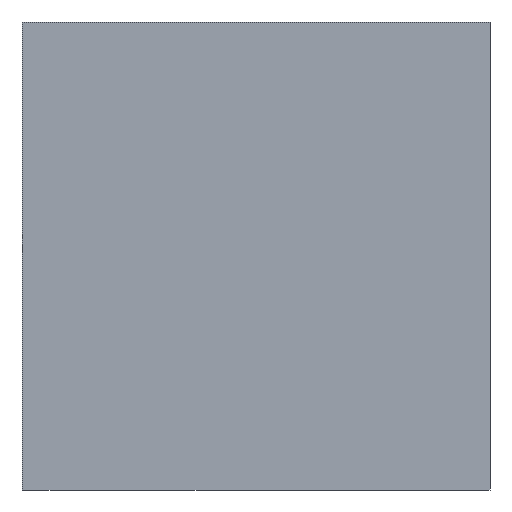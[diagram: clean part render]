
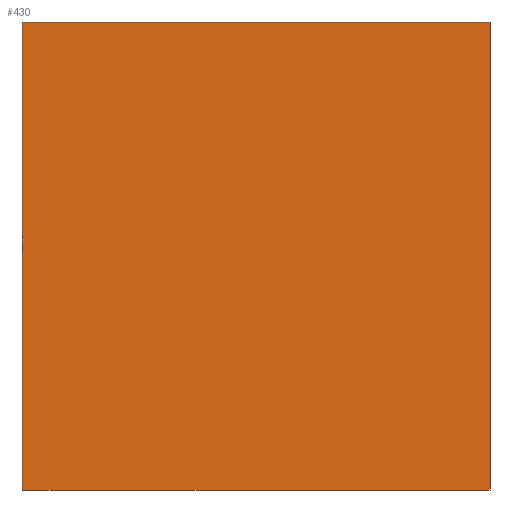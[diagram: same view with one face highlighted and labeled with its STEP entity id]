
A CAD part, left-side view. The second image highlights one B-rep face of the part: STEP entity #430.
In plain terms, the highlighted planar face has unit normal (-1, 0, 0).
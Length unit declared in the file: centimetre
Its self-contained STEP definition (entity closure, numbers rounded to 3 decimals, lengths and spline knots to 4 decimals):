
#34 = PLANE ( 'NONE',  #444 ) ;
#36 = VERTEX_POINT ( 'NONE', #450 ) ;
#45 = DIRECTION ( 'NONE',  ( 0., 0., -1. ) ) ;
#51 = EDGE_LOOP ( 'NONE', ( #802, #872, #668, #535 ) ) ;
#164 = CARTESIAN_POINT ( 'NONE',  ( 0., 1000., 0. ) ) ;
#187 = LINE ( 'NONE', #932, #747 ) ;
#199 = CARTESIAN_POINT ( 'NONE',  ( 0., 0., 1000. ) ) ;
#229 = DIRECTION ( 'NONE',  ( 0., -1., 0. ) ) ;
#266 = FACE_OUTER_BOUND ( 'NONE', #51, .T. ) ;
#300 = VECTOR ( 'NONE', #229, 100. ) ;
#355 = LINE ( 'NONE', #501, #581 ) ;
#377 = EDGE_CURVE ( 'NONE', #465, #531, #355, .T. ) ;
#379 = VERTEX_POINT ( 'NONE', #199 ) ;
#404 = DIRECTION ( 'NONE',  ( 0., 0., -1. ) ) ;
#413 = DIRECTION ( 'NONE',  ( 1., 0., 0. ) ) ;
#430 = ADVANCED_FACE ( 'NONE', ( #266 ), #34, .F. ) ;
#435 = DIRECTION ( 'NONE',  ( 0., 0., -1. ) ) ;
#444 = AXIS2_PLACEMENT_3D ( 'NONE', #631, #413, #404 ) ;
#450 = CARTESIAN_POINT ( 'NONE',  ( 0., 0., 0. ) ) ;
#465 = VERTEX_POINT ( 'NONE', #923 ) ;
#490 = LINE ( 'NONE', #927, #509 ) ;
#501 = CARTESIAN_POINT ( 'NONE',  ( 0., 1000., 1000. ) ) ;
#509 = VECTOR ( 'NONE', #45, 100. ) ;
#531 = VERTEX_POINT ( 'NONE', #620 ) ;
#535 = ORIENTED_EDGE ( 'NONE', *, *, #377, .T. ) ;
#581 = VECTOR ( 'NONE', #435, 100. ) ;
#620 = CARTESIAN_POINT ( 'NONE',  ( 0., 1000., 0. ) ) ;
#631 = CARTESIAN_POINT ( 'NONE',  ( 0., 1000., 1000. ) ) ;
#668 = ORIENTED_EDGE ( 'NONE', *, *, #853, .F. ) ;
#747 = VECTOR ( 'NONE', #922, 100. ) ;
#802 = ORIENTED_EDGE ( 'NONE', *, *, #818, .T. ) ;
#818 = EDGE_CURVE ( 'NONE', #531, #36, #905, .T. ) ;
#853 = EDGE_CURVE ( 'NONE', #465, #379, #187, .T. ) ;
#862 = EDGE_CURVE ( 'NONE', #379, #36, #490, .T. ) ;
#872 = ORIENTED_EDGE ( 'NONE', *, *, #862, .F. ) ;
#905 = LINE ( 'NONE', #164, #300 ) ;
#922 = DIRECTION ( 'NONE',  ( 0., -1., 0. ) ) ;
#923 = CARTESIAN_POINT ( 'NONE',  ( 0., 1000., 1000. ) ) ;
#927 = CARTESIAN_POINT ( 'NONE',  ( 0., 0., 1000. ) ) ;
#932 = CARTESIAN_POINT ( 'NONE',  ( 0., 1000., 1000. ) ) ;
